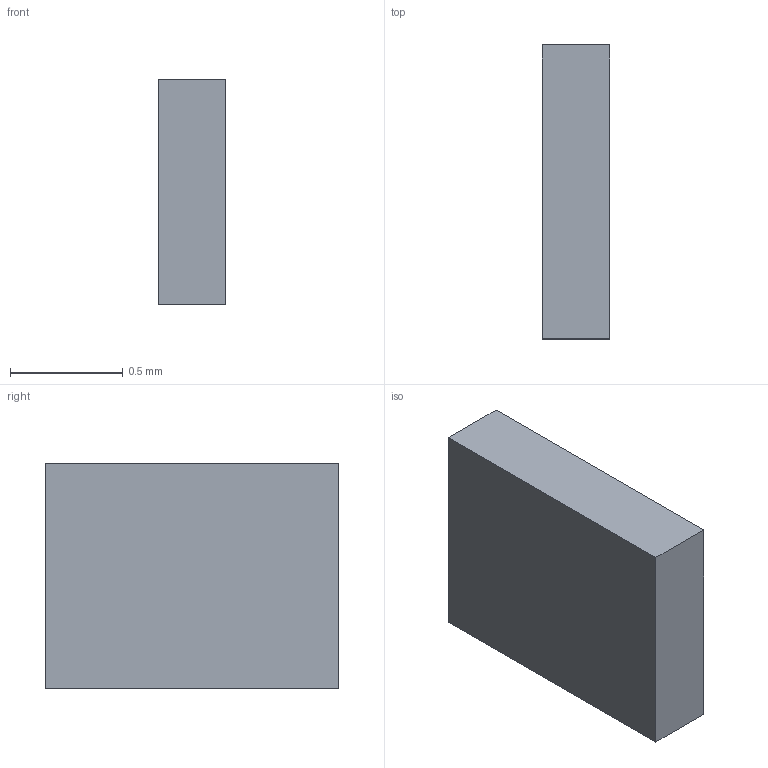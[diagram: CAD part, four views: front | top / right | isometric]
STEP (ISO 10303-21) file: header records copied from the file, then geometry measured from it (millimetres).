
FILE_DESCRIPTION(/* description */ ('STEP AP242 Edition 2','CAx-IF Rec.Pracs.---Representation and Presentation of Product Manufacturing Information (PMI)---4.0---2014-10-13','CAx-IF Rec.Pracs.---3D Tessellated Geometry---0.4---2014-09-14','2;1','CAx-IF Rec.Pracs.---User Defined Attributes---1.5---2016-08-15'),/* implementation_level */ '2;1');
FILE_NAME(/* name */ 'Drone Layout - Surface 194',/* time_stamp */ '2026-10-04T22:22:52Z',/* author */ (''),/* organization */ (''),/* preprocessor_version */ 'ST-DEVELOPER v20',/* originating_system */ 'ONSHAPE BY PTC INC, 1.221',/* authorisation */ ' ');
FILE_SCHEMA (('AP242_MANAGED_MODEL_BASED_3D_ENGINEERING_MIM_LF { 1 0 10303 442 3 1 4 }'));
Length unit declared in the file: metre
Products named in the file (1): Res:1__resend (1)_4
Bounding box: 0.3 x 1.3 x 1 mm (x, y, z)
Volume: 0.4 mm3; surface area: 4 mm2
Topology: 1 solids, 1 shells, 6 faces, 12 edges, 8 vertices
Faces by surface type: plane 6
Entity records: 169 total; most frequent: CARTESIAN_POINT 27, DIRECTION 26, ORIENTED_EDGE 24, EDGE_CURVE 12, LINE 12, VECTOR 12, VERTEX_POINT 8, AXIS2_PLACEMENT_3D 7
